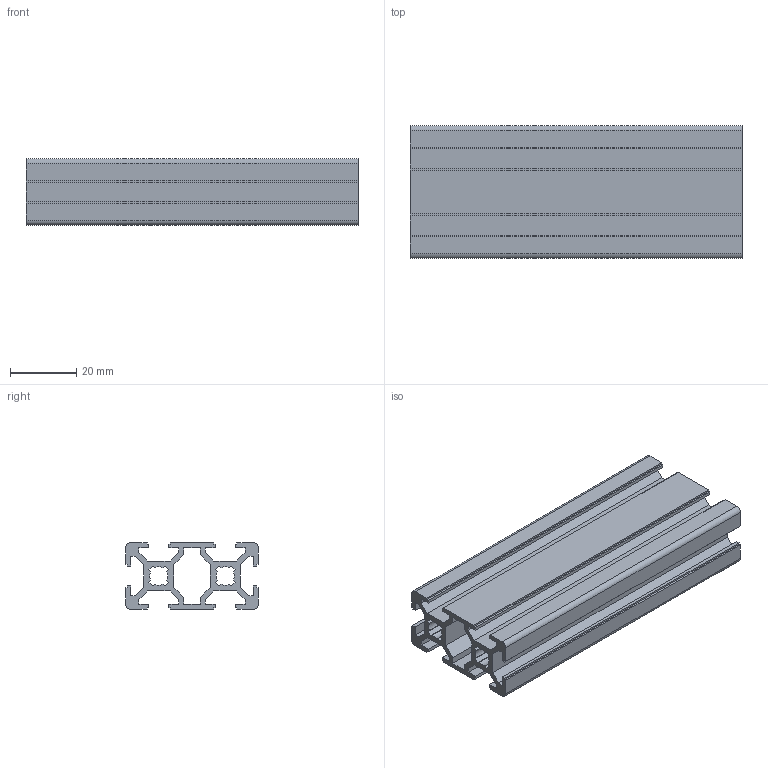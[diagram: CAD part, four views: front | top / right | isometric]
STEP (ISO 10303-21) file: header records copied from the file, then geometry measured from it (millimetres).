
FILE_DESCRIPTION(('no description'),'unknown implementation level');
FILE_NAME('3842992891_103732672.stp',' ',('Bosch Rexroth AG'),('CADClick - KiM GmbH - www.kimweb.de'),'unknown preprocess','ACIS','unknown authorization');
FILE_SCHEMA(('automotive_design'));
Length unit declared in the file: millimetre
Products named in the file (1): 1
Bounding box: 100 x 40 x 20 mm (x, y, z)
Volume: 29078.3 mm3; surface area: 33939.4 mm2
Topology: 1 solids, 1 shells, 138 faces, 408 edges, 272 vertices
Faces by surface type: plane 126, cylinder 12
Entity records: 9076 total; most frequent: STYLED_ITEM 819, PRESENTATION_STYLE_ASSIGNMENT 819, CARTESIAN_POINT 819, COLOUR_RGB 819, ORIENTED_EDGE 816, DIRECTION 710, EDGE_CURVE 408, CURVE_STYLE 408
